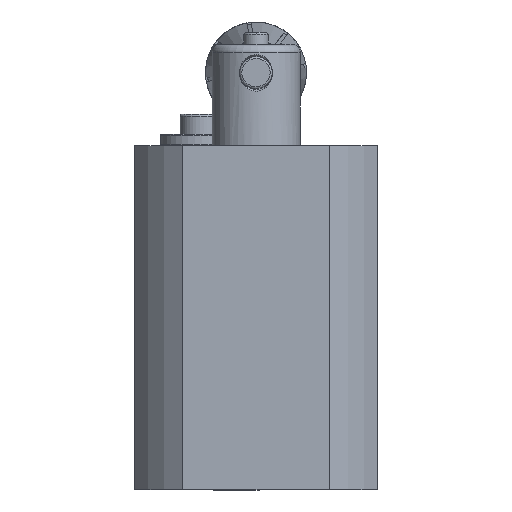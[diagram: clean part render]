
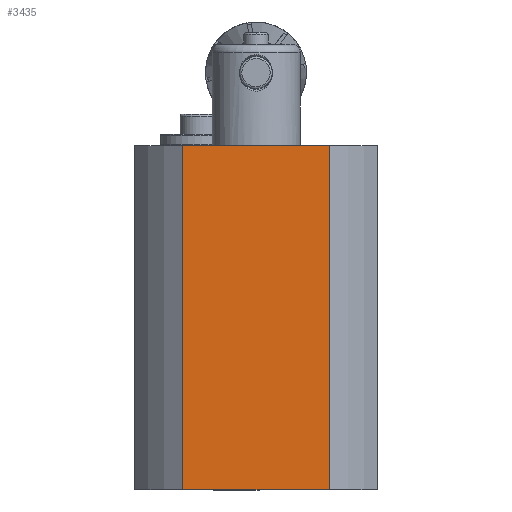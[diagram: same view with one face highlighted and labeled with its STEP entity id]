
A CAD part, left-side view. The second image highlights one B-rep face of the part: STEP entity #3435.
In plain terms, the highlighted planar face has unit normal (-1, 0, 0).
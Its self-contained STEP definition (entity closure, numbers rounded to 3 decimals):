
#341=ORIENTED_EDGE('',*,*,#957,.T.);
#342=ORIENTED_EDGE('',*,*,#958,.T.);
#343=ORIENTED_EDGE('',*,*,#956,.T.);
#344=ORIENTED_EDGE('',*,*,#959,.F.);
#956=EDGE_CURVE('',#1265,#1266,#1468,.T.);
#957=EDGE_CURVE('',#1267,#1268,#1469,.F.);
#958=EDGE_CURVE('',#1268,#1265,#1470,.T.);
#959=EDGE_CURVE('',#1267,#1266,#1471,.T.);
#1265=VERTEX_POINT('',#4725);
#1266=VERTEX_POINT('',#4727);
#1267=VERTEX_POINT('',#4731);
#1268=VERTEX_POINT('',#4732);
#1468=LINE('',#4728,#1608);
#1469=LINE('',#4730,#1609);
#1470=LINE('',#4733,#1610);
#1471=LINE('',#4734,#1611);
#1608=VECTOR('',#3977,1000.);
#1609=VECTOR('',#3980,1000.);
#1610=VECTOR('',#3981,1000.);
#1611=VECTOR('',#3982,1000.);
#1774=EDGE_LOOP('',(#341,#342,#343,#344));
#2016=FACE_BOUND('',#1774,.T.);
#2231=PLANE('',#3628);
#3435=ADVANCED_FACE('',(#2016),#2231,.F.);
#3628=AXIS2_PLACEMENT_3D('',#4729,#3978,#3979);
#3977=DIRECTION('',(0.,0.,1.));
#3978=DIRECTION('',(1.,0.,0.));
#3979=DIRECTION('',(0.,0.,-1.));
#3980=DIRECTION('',(0.,0.,1.));
#3981=DIRECTION('',(0.,-1.,0.));
#3982=DIRECTION('',(0.,-1.,0.));
#4725=CARTESIAN_POINT('',(-23.969,-18.01,2.544));
#4727=CARTESIAN_POINT('',(-23.969,-18.01,87.459));
#4728=CARTESIAN_POINT('',(-23.969,-18.01,45.002));
#4729=CARTESIAN_POINT('',(-23.969,49.95,49.997));
#4730=CARTESIAN_POINT('',(-23.969,18.01,45.002));
#4731=CARTESIAN_POINT('',(-23.969,18.01,87.459));
#4732=CARTESIAN_POINT('',(-23.969,18.01,2.544));
#4733=CARTESIAN_POINT('',(-23.969,49.95,2.544));
#4734=CARTESIAN_POINT('',(-23.969,49.95,87.459));
